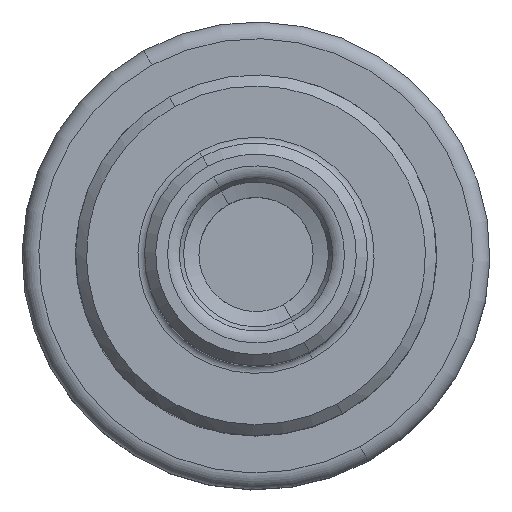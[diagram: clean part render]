
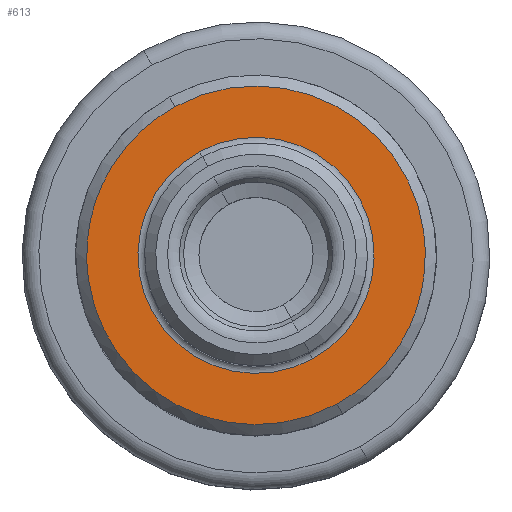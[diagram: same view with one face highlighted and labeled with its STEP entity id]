
A CAD part, top view. The second image highlights one B-rep face of the part: STEP entity #613.
In plain terms, the highlighted planar face has unit normal (0, 0, 1).
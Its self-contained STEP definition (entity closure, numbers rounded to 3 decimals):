
#510=AXIS2_PLACEMENT_3D('Circle Axis2P3D',#508,#509,$) ;
#522=AXIS2_PLACEMENT_3D('Circle Axis2P3D',#520,#521,$) ;
#535=AXIS2_PLACEMENT_3D('Plane Axis2P3D',#532,#533,#534) ;
#498=CARTESIAN_POINT('Vertex',(5.082,-9.302,-50.)) ;
#505=CARTESIAN_POINT('Vertex',(-5.082,9.302,-50.)) ;
#508=CARTESIAN_POINT('Axis2P3D Location',(0.,0.,-50.)) ;
#520=CARTESIAN_POINT('Axis2P3D Location',(0.,0.,-50.)) ;
#532=CARTESIAN_POINT('Axis2P3D Location',(0.,10.6,-50.)) ;
#538=CARTESIAN_POINT('Control Point',(-7.287,13.339,-50.)) ;
#539=CARTESIAN_POINT('Control Point',(-5.964,14.062,-50.)) ;
#540=CARTESIAN_POINT('Control Point',(-4.551,14.621,-50.)) ;
#541=CARTESIAN_POINT('Control Point',(-3.075,15.001,-50.)) ;
#542=CARTESIAN_POINT('Control Point',(-0.038,15.39,-50.)) ;
#543=CARTESIAN_POINT('Control Point',(3.002,15.019,-50.)) ;
#544=CARTESIAN_POINT('Control Point',(4.502,14.64,-50.)) ;
#545=CARTESIAN_POINT('Control Point',(7.373,13.512,-50.)) ;
#546=CARTESIAN_POINT('Control Point',(9.876,11.707,-50.)) ;
#547=CARTESIAN_POINT('Control Point',(11.006,10.651,-50.)) ;
#548=CARTESIAN_POINT('Control Point',(12.32,9.069,-50.)) ;
#549=CARTESIAN_POINT('Control Point',(13.345,7.303,-50.)) ;
#550=CARTESIAN_POINT('Control Point',(13.583,6.851,-50.)) ;
#551=CARTESIAN_POINT('Control Point',(14.213,5.519,-50.)) ;
#552=CARTESIAN_POINT('Control Point',(14.679,4.119,-50.)) ;
#553=CARTESIAN_POINT('Control Point',(14.91,3.181,-50.)) ;
#554=CARTESIAN_POINT('Control Point',(15.149,1.725,-50.)) ;
#555=CARTESIAN_POINT('Control Point',(15.211,0.255,-50.)) ;
#556=CARTESIAN_POINT('Control Point',(15.211,-0.255,-50.)) ;
#557=CARTESIAN_POINT('Control Point',(15.149,-1.725,-50.)) ;
#558=CARTESIAN_POINT('Control Point',(14.91,-3.181,-50.)) ;
#559=CARTESIAN_POINT('Control Point',(14.679,-4.119,-50.)) ;
#560=CARTESIAN_POINT('Control Point',(13.89,-6.489,-50.)) ;
#561=CARTESIAN_POINT('Control Point',(12.632,-8.661,-50.)) ;
#562=CARTESIAN_POINT('Control Point',(11.695,-9.89,-50.)) ;
#563=CARTESIAN_POINT('Control Point',(10.252,-11.354,-50.)) ;
#564=CARTESIAN_POINT('Control Point',(8.598,-12.55,-50.)) ;
#565=CARTESIAN_POINT('Control Point',(8.172,-12.831,-50.)) ;
#566=CARTESIAN_POINT('Control Point',(7.735,-13.095,-50.)) ;
#567=CARTESIAN_POINT('Control Point',(7.287,-13.339,-50.)) ;
#568=CARTESIAN_POINT('Vertex',(-7.287,13.339,-50.)) ;
#570=CARTESIAN_POINT('Vertex',(7.287,-13.339,-50.)) ;
#574=CARTESIAN_POINT('Control Point',(7.287,-13.339,-50.)) ;
#575=CARTESIAN_POINT('Control Point',(5.964,-14.062,-50.)) ;
#576=CARTESIAN_POINT('Control Point',(4.551,-14.621,-50.)) ;
#577=CARTESIAN_POINT('Control Point',(3.075,-15.001,-50.)) ;
#578=CARTESIAN_POINT('Control Point',(0.038,-15.39,-50.)) ;
#579=CARTESIAN_POINT('Control Point',(-3.002,-15.019,-50.)) ;
#580=CARTESIAN_POINT('Control Point',(-4.502,-14.64,-50.)) ;
#581=CARTESIAN_POINT('Control Point',(-7.373,-13.512,-50.)) ;
#582=CARTESIAN_POINT('Control Point',(-9.876,-11.707,-50.)) ;
#583=CARTESIAN_POINT('Control Point',(-11.006,-10.651,-50.)) ;
#584=CARTESIAN_POINT('Control Point',(-12.32,-9.069,-50.)) ;
#585=CARTESIAN_POINT('Control Point',(-13.345,-7.303,-50.)) ;
#586=CARTESIAN_POINT('Control Point',(-13.583,-6.851,-50.)) ;
#587=CARTESIAN_POINT('Control Point',(-14.213,-5.519,-50.)) ;
#588=CARTESIAN_POINT('Control Point',(-14.679,-4.119,-50.)) ;
#589=CARTESIAN_POINT('Control Point',(-14.91,-3.181,-50.)) ;
#590=CARTESIAN_POINT('Control Point',(-15.149,-1.725,-50.)) ;
#591=CARTESIAN_POINT('Control Point',(-15.211,-0.255,-50.)) ;
#592=CARTESIAN_POINT('Control Point',(-15.211,0.255,-50.)) ;
#593=CARTESIAN_POINT('Control Point',(-15.149,1.725,-50.)) ;
#594=CARTESIAN_POINT('Control Point',(-14.91,3.181,-50.)) ;
#595=CARTESIAN_POINT('Control Point',(-14.679,4.119,-50.)) ;
#596=CARTESIAN_POINT('Control Point',(-13.89,6.491,-50.)) ;
#597=CARTESIAN_POINT('Control Point',(-12.631,8.664,-50.)) ;
#598=CARTESIAN_POINT('Control Point',(-11.692,9.893,-50.)) ;
#599=CARTESIAN_POINT('Control Point',(-10.25,11.357,-50.)) ;
#600=CARTESIAN_POINT('Control Point',(-8.595,12.552,-50.)) ;
#601=CARTESIAN_POINT('Control Point',(-8.17,12.833,-50.)) ;
#602=CARTESIAN_POINT('Control Point',(-7.734,13.095,-50.)) ;
#603=CARTESIAN_POINT('Control Point',(-7.287,13.339,-50.)) ;
#509=DIRECTION('Axis2P3D Direction',(0.,0.,1.)) ;
#521=DIRECTION('Axis2P3D Direction',(0.,0.,1.)) ;
#533=DIRECTION('Axis2P3D Direction',(0.,0.,1.)) ;
#534=DIRECTION('Axis2P3D XDirection',(1.,0.,0.)) ;
#606=ORIENTED_EDGE('',*,*,#572,.F.) ;
#607=ORIENTED_EDGE('',*,*,#604,.F.) ;
#610=ORIENTED_EDGE('',*,*,#512,.F.) ;
#611=ORIENTED_EDGE('',*,*,#524,.F.) ;
#612=FACE_BOUND('',#609,.T.) ;
#613=ADVANCED_FACE('NOCUT',(#608,#612),#536,.T.) ;
#537=B_SPLINE_CURVE_WITH_KNOTS('',5,(#538,#539,#540,#541,#542,#543,#544,#545,#546,#547,#548,#549,#550,#551,#552,#553,#554,#555,#556,#557,#558,#559,#560,#561,#562,#563,#564,#565,#566,#567),.UNSPECIFIED.,.F.,.U.,(6,3,3,3,3,3,3,3,3,6),(0.,10.84,21.842,32.844,36.51,43.422,47.081,53.993,64.985,68.651),.UNSPECIFIED.) ;
#573=B_SPLINE_CURVE_WITH_KNOTS('',5,(#574,#575,#576,#577,#578,#579,#580,#581,#582,#583,#584,#585,#586,#587,#588,#589,#590,#591,#592,#593,#594,#595,#596,#597,#598,#599,#600,#601,#602,#603),.UNSPECIFIED.,.F.,.U.,(6,3,3,3,3,3,3,3,3,6),(68.651,79.491,90.493,101.495,105.161,112.073,115.732,122.644,133.645,137.302),.UNSPECIFIED.) ;
#511=CIRCLE('generated circle',#510,10.6) ;
#523=CIRCLE('generated circle',#522,10.6) ;
#512=EDGE_CURVE('',#506,#499,#511,.T.) ;
#524=EDGE_CURVE('',#499,#506,#523,.T.) ;
#572=EDGE_CURVE('',#569,#571,#537,.T.) ;
#604=EDGE_CURVE('',#571,#569,#573,.T.) ;
#605=EDGE_LOOP('',(#606,#607)) ;
#609=EDGE_LOOP('',(#610,#611)) ;
#608=FACE_OUTER_BOUND('',#605,.T.) ;
#536=PLANE('',#535) ;
#499=VERTEX_POINT('',#498) ;
#506=VERTEX_POINT('',#505) ;
#569=VERTEX_POINT('',#568) ;
#571=VERTEX_POINT('',#570) ;
